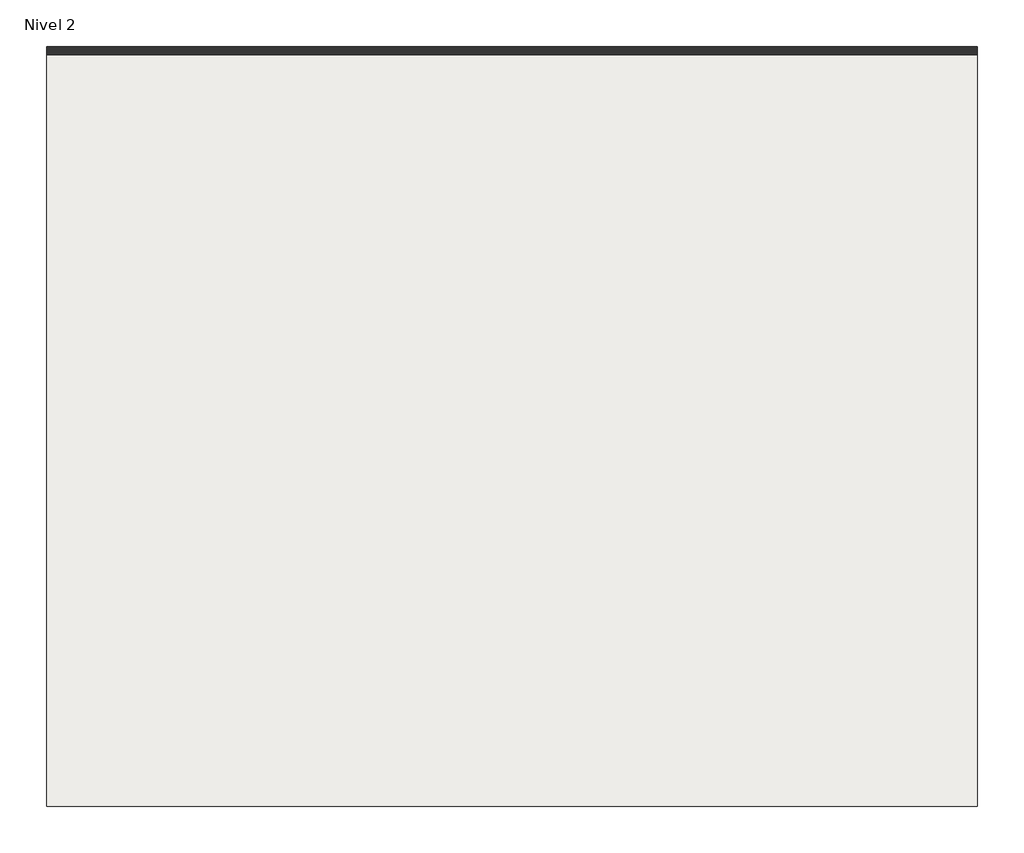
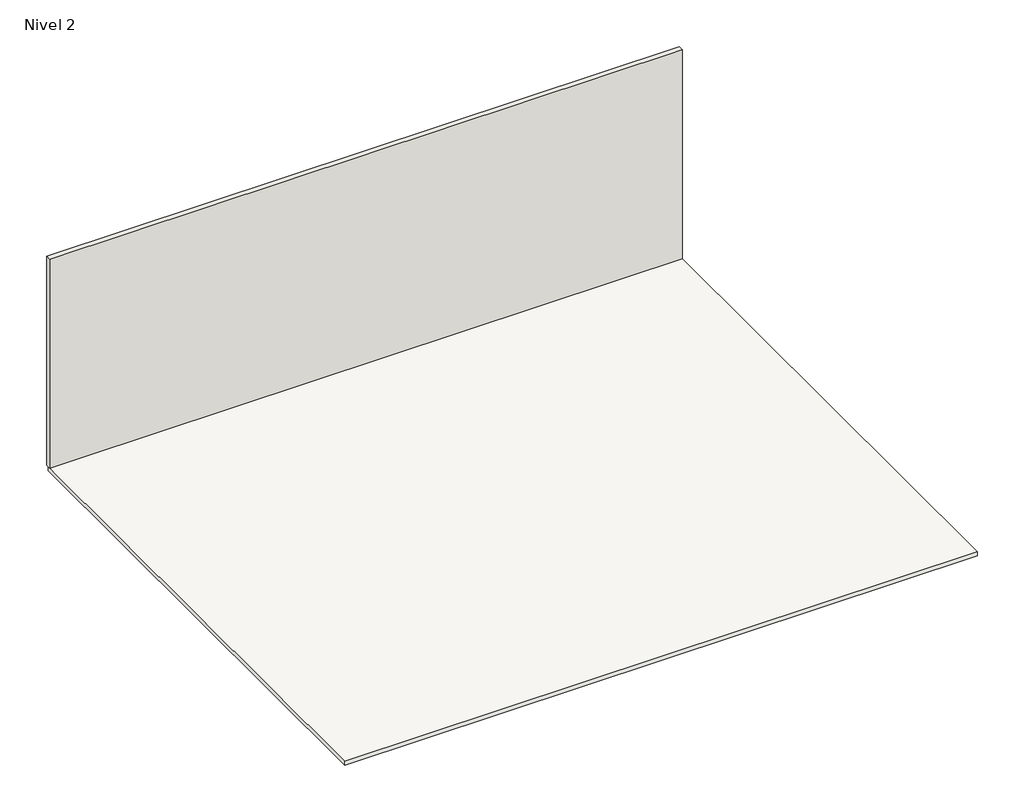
# One storey: 1 slab, 1 wall.
"""IFC4 building model written with IfcOpenShell, lengths in millimetres."""

import ifcopenshell
import ifcopenshell.guid

model = None  # the IFC model being written
_history = None  # IfcOwnerHistory: only IFC2X3 demands one
_inside = {}  # id of a spatial element -> (the spatial element, [elements in it])
_under = {}  # id of a project, library or spatial element -> (it, [spatial elements below it])
_declared = {}  # id of a project -> (the project, [libraries it declares])
_typed = {}  # id of a type object -> (the type object, [elements of that type])
_made_of = {}  # id of a material, layer set ... -> (it, [elements and type objects made of it])


def new_model(schema):
    """Start an empty IFC model of exactly this schema.

    Asked for "IFC4X3", IfcOpenShell would pick the latest addendum, in which some entities
    have other attributes; the version numbers below select the first issue.
    IFC2X3 requires an IfcOwnerHistory on every rooted entity: one is made here for all.
    """
    global model, _history
    if schema == "IFC4X3":
        model = ifcopenshell.file(schema_version=(4, 3, 0, 0))
    else:
        model = ifcopenshell.file(schema=schema)
    _inside.clear()
    _under.clear()
    _declared.clear()
    _typed.clear()
    _made_of.clear()
    _history = None
    if model.schema == "IFC2X3":
        org = make("IfcOrganization", Name="unknown")
        user = make(
            "IfcPersonAndOrganization",
            ThePerson=make("IfcPerson", FamilyName="unknown"),
            TheOrganization=org,
        )
        app = make(
            "IfcApplication",
            ApplicationDeveloper=org,
            Version="unknown",
            ApplicationFullName="unknown",
            ApplicationIdentifier="unknown",
        )
        _history = make(
            "IfcOwnerHistory",
            OwningUser=user,
            OwningApplication=app,
            ChangeAction="ADDED",
            CreationDate=0,
        )
    return model


def make(cls, **values):
    """One entity of the class cls with the attributes given. An attribute that is None is left unset."""
    return model.create_entity(
        cls, **{name: value for name, value in values.items() if value is not None}
    )


def rooted(cls, **values):
    """An entity with a GlobalId (a new one), such as an element, a storey or a relation."""
    return make(cls, GlobalId=ifcopenshell.guid.new(), OwnerHistory=_history, **values)


def si_unit(unit_type, name, prefix=None):
    """IfcSIUnit, for example si_unit("LENGTHUNIT", "METRE", prefix="MILLI")."""
    return make("IfcSIUnit", UnitType=unit_type, Prefix=prefix, Name=name)


def assignment(units):
    """IfcUnitAssignment: the units of a project."""
    return None if units is None else make("IfcUnitAssignment", Units=units)


def point(xyz):
    """IfcCartesianPoint."""
    return None if xyz is None else make("IfcCartesianPoint", Coordinates=xyz)


def direction(xyz):
    """IfcDirection."""
    return None if xyz is None else make("IfcDirection", DirectionRatios=xyz)


def frame(location, z_axis=None, x_axis=None):
    """IfcAxis2Placement3D, a coordinate frame: its origin and axes. An axis left out is left unset."""
    return make(
        "IfcAxis2Placement3D",
        Location=point(location),
        Axis=direction(z_axis),
        RefDirection=direction(x_axis),
    )


def origin():
    """The frame at (0, 0, 0) with its axes left unset."""
    return frame((0.0, 0.0, 0.0))


def place(relative_to, where):
    """IfcLocalPlacement: puts the frame where relative to a parent placement (None: the world)."""
    return make(
        "IfcLocalPlacement", PlacementRelTo=relative_to, RelativePlacement=where
    )


def context(
    kind, dimensions, precision=None, world=None, true_north=None, identifier=None
):
    """IfcGeometricRepresentationContext, for example the 3D "Model" context."""
    return make(
        "IfcGeometricRepresentationContext",
        ContextIdentifier=identifier,
        ContextType=kind,
        CoordinateSpaceDimension=dimensions,
        Precision=precision,
        WorldCoordinateSystem=world,
        TrueNorth=true_north,
    )


def project(units=None, contexts=None):
    """IfcProject with its units and contexts."""
    return rooted(
        "IfcProject",
        Name="project",
        RepresentationContexts=contexts,
        UnitsInContext=assignment(units),
    )


def spatial(cls, under=None, at=None, **own):
    """A site, building, storey or space (cls), placed at a placement, below another one or the project."""
    s = rooted(cls, ObjectPlacement=at, **own)
    if under is not None:
        _under.setdefault(under.id(), (under, []))[1].append(s)
    return s


def polyline(points):
    """IfcPolyline through the points."""
    return make("IfcPolyline", Points=[point(p) for p in points])


def outline(outer, holes=None, kind="AREA"):
    """IfcArbitraryClosedProfileDef: a profile drawn as a closed curve; with holes, ...WithVoids."""
    if holes is None:
        return make("IfcArbitraryClosedProfileDef", ProfileType=kind, OuterCurve=outer)
    return make(
        "IfcArbitraryProfileDefWithVoids",
        ProfileType=kind,
        OuterCurve=outer,
        InnerCurves=holes,
    )


def extrude(swept, where, along, depth):
    """IfcExtrudedAreaSolid: the profile swept, set in the frame where, extruded along a direction by depth."""
    return make(
        "IfcExtrudedAreaSolid",
        SweptArea=swept,
        Position=where,
        ExtrudedDirection=direction(along),
        Depth=depth,
    )


def shape(context_of_items, identifier, shape_type, items):
    """IfcShapeRepresentation: the items that make up one representation, for example the "Body"."""
    return make(
        "IfcShapeRepresentation",
        ContextOfItems=context_of_items,
        RepresentationIdentifier=identifier,
        RepresentationType=shape_type,
        Items=items,
    )


def made_of(thing, what):
    """Note that an element or type object is made of a material, layer set ...; save() writes the relation."""
    if what is not None:
        _made_of.setdefault(what.id(), (what, []))[1].append(thing)
    return thing


def element(
    cls,
    number,
    at=None,
    inside=None,
    cuts=None,
    type_object=None,
    material=None,
    context=None,
    identifier="Body",
    shape_type=None,
    held_by="IfcProductDefinitionShape",
    body=None,
    shapes=None,
    **own,
):
    """One element of the class cls, such as IfcWall. Its Tag is "e" and its number.

    at: its placement. inside: the storey or other place that contains it. cuts: it is an
    opening in that element (IfcRelVoidsElement). A single representation is given by context,
    identifier, shape_type and body (its items); several are given by shapes. held_by: the class
    of the entity that holds the representations. save() writes the other relations.
    """
    e = rooted(cls, Tag="e%d" % number, ObjectPlacement=at, **own)
    if body is not None:
        shapes = [shape(context, identifier, shape_type, body)]
    if shapes is not None:
        e.Representation = make(held_by, Representations=shapes)
    if inside is not None:
        _inside.setdefault(inside.id(), (inside, []))[1].append(e)
    if cuts is not None:
        rooted(
            "IfcRelVoidsElement", RelatingBuildingElement=cuts, RelatedOpeningElement=e
        )
    if type_object is not None:
        _typed.setdefault(type_object.id(), (type_object, []))[1].append(e)
    return made_of(e, material)


def aggregate(whole, parts):
    """IfcRelAggregates: a whole, such as a stair, and the parts it consists of."""
    return rooted("IfcRelAggregates", RelatingObject=whole, RelatedObjects=parts)


def save(model, path):
    """Write the relations noted so far, then the file.

    IfcRelAggregates (storeys below a building ...), IfcRelContainedInSpatialStructure (elements
    in a storey), IfcRelDefinesByType, IfcRelAssociatesMaterial and IfcRelDeclares: one each for
    every whole, place, type object, material and project.
    """
    for whole, parts in _under.values():
        aggregate(whole, parts)
    for where, things in _inside.values():
        rooted(
            "IfcRelContainedInSpatialStructure",
            RelatedElements=things,
            RelatingStructure=where,
        )
    for kind, things in _typed.values():
        rooted("IfcRelDefinesByType", RelatedObjects=things, RelatingType=kind)
    for what, things in _made_of.values():
        rooted("IfcRelAssociatesMaterial", RelatedObjects=things, RelatingMaterial=what)
    for by, libraries in _declared.values():
        rooted("IfcRelDeclares", RelatingContext=by, RelatedDefinitions=libraries)
    model.write(path)


model = new_model("IFC4")

# Units and contexts
model_context = context("Model", 3, world=origin())
ifc_project = project(units=[si_unit("LENGTHUNIT", "METRE", prefix="MILLI")], contexts=[model_context])

# Site, building, storey
site = spatial("IfcSite", under=ifc_project)
building = spatial("IfcBuilding", under=site)
storey = spatial("IfcBuildingStorey", under=building, Name="Nivel 2", Elevation=4000.0)

# Slab
placement = place(None, origin())
element("IfcSlab", 1, ObjectType="Genérico 150 mm", at=placement, inside=storey, context=model_context, shape_type="SweptSolid", body=[
    extrude(outline(polyline([(11679.5577631, 8548.4136988), (11679.5577631, -10051.5863012), (-11220.4422369, -10051.5863012), (-11220.4422369, 8548.4136988), (11679.5577631, 8548.4136988)])), frame((0.0, 0.0, 3850.0), z_axis=(0.0, 0.0, 1.0), x_axis=(1.0, 0.0, 0.0)), (0.0, 0.0, 1.0), 150.0),
])

# Wall
element("IfcWall", 2, ObjectType="Genérico - 200 mm", at=placement, inside=storey, context=model_context, shape_type="SweptSolid", body=[
    extrude(outline(polyline([(-11220.4422369, 8648.4136988), (11679.5577631, 8648.4136988), (11679.5577631, 8448.4136988), (-11220.4422369, 8448.4136988), (-11220.4422369, 8648.4136988)])), frame((0.0, 0.0, 4000.0), z_axis=(0.0, 0.0, 1.0), x_axis=(1.0, 0.0, 0.0)), (0.0, 0.0, 1.0), 8000.0),
])

save(model, "model.ifc")
